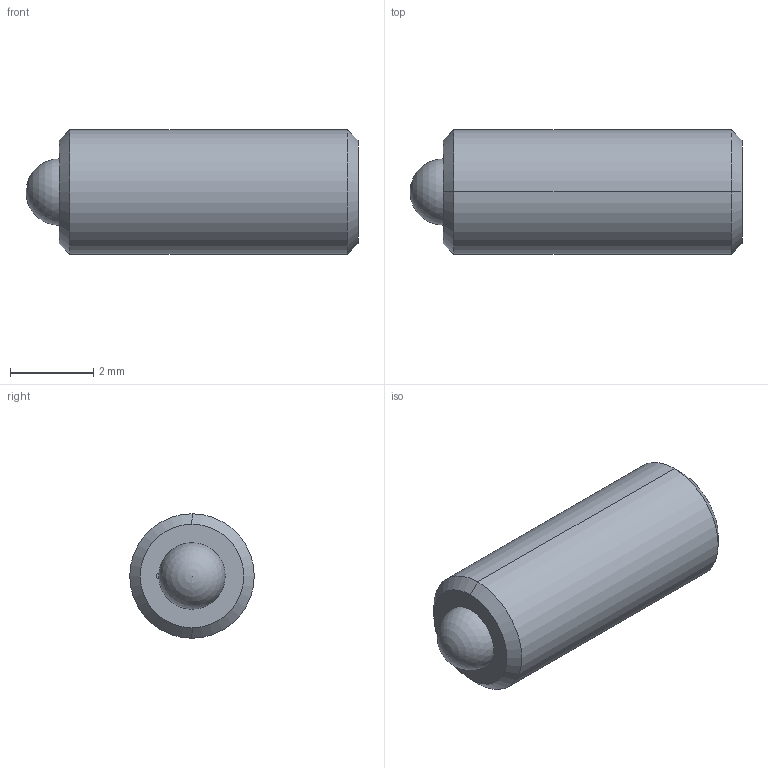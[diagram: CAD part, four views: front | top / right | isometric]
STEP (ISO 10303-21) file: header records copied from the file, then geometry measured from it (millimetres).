
FILE_DESCRIPTION (( 'STEP AP214' ), '1' );
FILE_NAME ('TS3-20-08-HV.STEP', '2013-05-10T15:21:38', ( 'workpc' ), ( 'Microsoft' ), 'SwSTEP 2.0', 'SolidWorks 2013', '' );
FILE_SCHEMA (( 'AUTOMOTIVE_DESIGN' ));
Length unit declared in the file: millimetre
Products named in the file (1): TS3-20-08-HV
Bounding box: 8 x 3 x 3 mm (x, y, z)
Volume: 47 mm3; surface area: 101.5 mm2
Topology: 2 solids, 2 shells, 24 faces, 57 edges, 37 vertices
Faces by surface type: plane 10, cylinder 8, cone 4, sphere 2
Entity records: 727 total; most frequent: DIRECTION 124, CARTESIAN_POINT 111, ORIENTED_EDGE 104, EDGE_CURVE 52, AXIS2_PLACEMENT_3D 47, VERTEX_POINT 34, LINE 30, VECTOR 30
